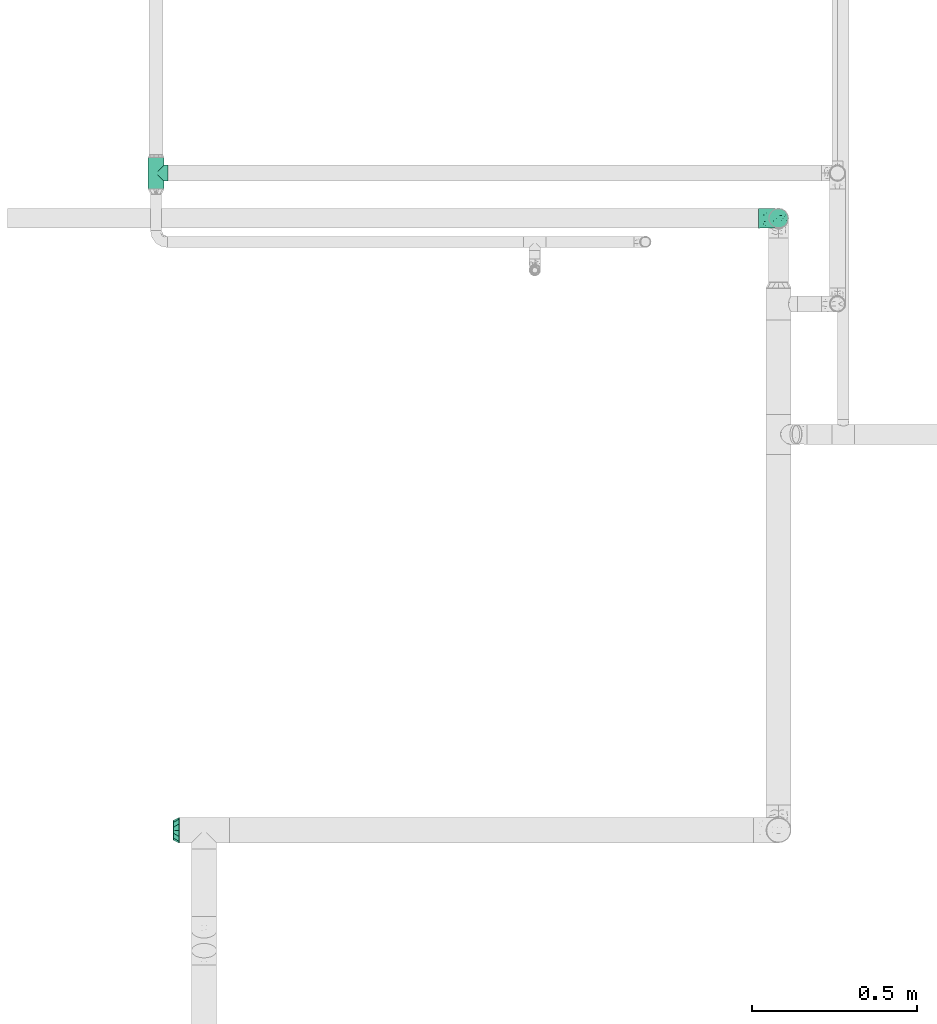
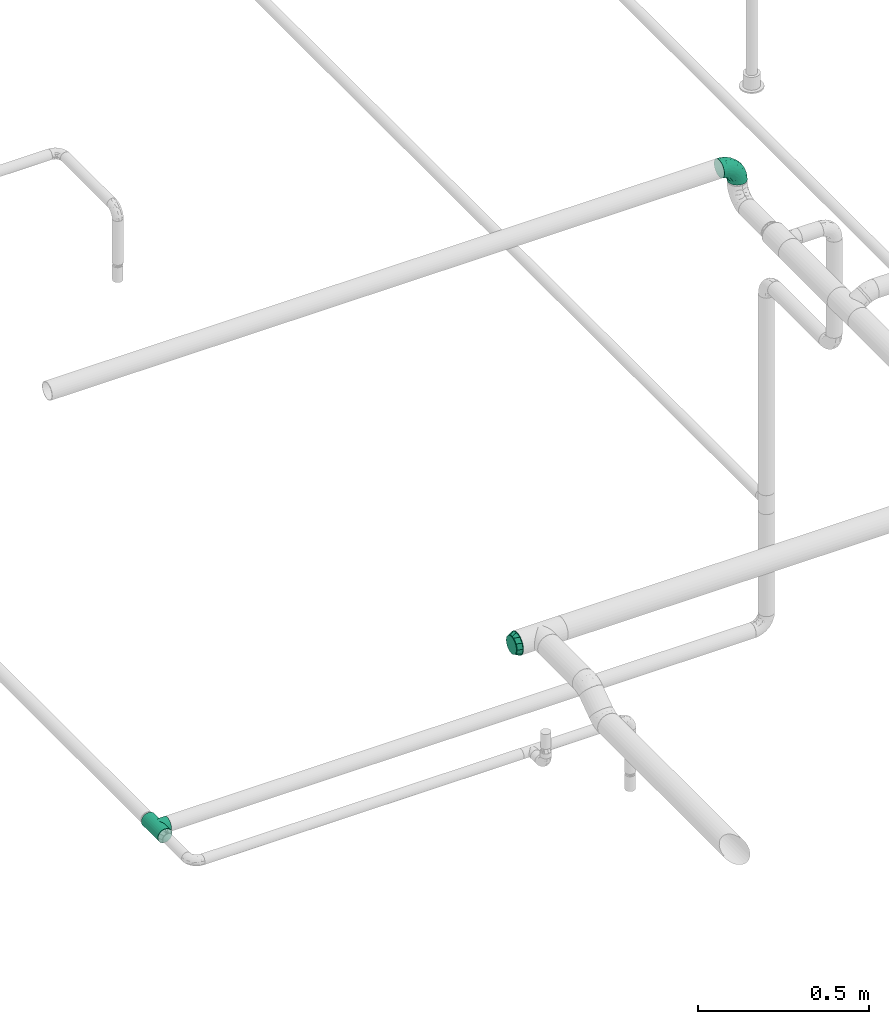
# One storey, part 86 of 95: 3 flow fittings.
"""IFC2X3 building model written with IfcOpenShell, lengths in millimetres."""

import ifcopenshell
import ifcopenshell.guid

model = None  # the IFC model being written
_history = None  # IfcOwnerHistory: only IFC2X3 demands one
_inside = {}  # id of a spatial element -> (the spatial element, [elements in it])
_under = {}  # id of a project, library or spatial element -> (it, [spatial elements below it])
_declared = {}  # id of a project -> (the project, [libraries it declares])
_typed = {}  # id of a type object -> (the type object, [elements of that type])
_made_of = {}  # id of a material, layer set ... -> (it, [elements and type objects made of it])


def new_model(schema):
    """Start an empty IFC model of exactly this schema.

    Asked for "IFC4X3", IfcOpenShell would pick the latest addendum, in which some entities
    have other attributes; the version numbers below select the first issue.
    IFC2X3 requires an IfcOwnerHistory on every rooted entity: one is made here for all.
    """
    global model, _history
    if schema == "IFC4X3":
        model = ifcopenshell.file(schema_version=(4, 3, 0, 0))
    else:
        model = ifcopenshell.file(schema=schema)
    _inside.clear()
    _under.clear()
    _declared.clear()
    _typed.clear()
    _made_of.clear()
    _history = None
    if model.schema == "IFC2X3":
        org = make("IfcOrganization", Name="unknown")
        user = make(
            "IfcPersonAndOrganization",
            ThePerson=make("IfcPerson", FamilyName="unknown"),
            TheOrganization=org,
        )
        app = make(
            "IfcApplication",
            ApplicationDeveloper=org,
            Version="unknown",
            ApplicationFullName="unknown",
            ApplicationIdentifier="unknown",
        )
        _history = make(
            "IfcOwnerHistory",
            OwningUser=user,
            OwningApplication=app,
            ChangeAction="ADDED",
            CreationDate=0,
        )
    return model


def make(cls, **values):
    """One entity of the class cls with the attributes given. An attribute that is None is left unset."""
    return model.create_entity(
        cls, **{name: value for name, value in values.items() if value is not None}
    )


def entity(cls, *values):
    """Any entity or typed value of the class cls, its attributes in the order of the schema. None: left unset."""
    e = model.create_entity(cls)
    for i, value in enumerate(values):
        if value is not None:
            e[i] = value
    return e


def rooted(cls, **values):
    """An entity with a GlobalId (a new one), such as an element, a storey or a relation."""
    return make(cls, GlobalId=ifcopenshell.guid.new(), OwnerHistory=_history, **values)


def si_unit(unit_type, name, prefix=None):
    """IfcSIUnit, for example si_unit("LENGTHUNIT", "METRE", prefix="MILLI")."""
    return make("IfcSIUnit", UnitType=unit_type, Prefix=prefix, Name=name)


def converted_unit(unit_type, name, factor, base, dimensions=None, offset=None):
    """IfcConversionBasedUnit, such as the inch: factor (a typed value) times the base unit."""
    return make(
        "IfcConversionBasedUnit"
        if offset is None
        else "IfcConversionBasedUnitWithOffset",
        ConversionOffset=offset,
        Dimensions=None
        if dimensions is None
        else entity("IfcDimensionalExponents", *dimensions),
        UnitType=unit_type,
        Name=name,
        ConversionFactor=make(
            "IfcMeasureWithUnit", ValueComponent=factor, UnitComponent=base
        ),
    )


def derived_unit(unit_type, elements):
    """IfcDerivedUnit: a product of units, each with its exponent."""
    return make(
        "IfcDerivedUnit",
        Elements=[
            make("IfcDerivedUnitElement", Unit=unit, Exponent=power)
            for unit, power in elements
        ],
        UnitType=unit_type,
    )


def assignment(units):
    """IfcUnitAssignment: the units of a project."""
    return None if units is None else make("IfcUnitAssignment", Units=units)


def point(xyz):
    """IfcCartesianPoint."""
    return None if xyz is None else make("IfcCartesianPoint", Coordinates=xyz)


def direction(xyz):
    """IfcDirection."""
    return None if xyz is None else make("IfcDirection", DirectionRatios=xyz)


def frame(location, z_axis=None, x_axis=None):
    """IfcAxis2Placement3D, a coordinate frame: its origin and axes. An axis left out is left unset."""
    return make(
        "IfcAxis2Placement3D",
        Location=point(location),
        Axis=direction(z_axis),
        RefDirection=direction(x_axis),
    )


def origin_with_axes():
    """The frame at (0, 0, 0) with the z axis (0, 0, 1) and the x axis (1, 0, 0) written out."""
    return frame((0.0, 0.0, 0.0), z_axis=(0.0, 0.0, 1.0), x_axis=(1.0, 0.0, 0.0))


def place(relative_to, where):
    """IfcLocalPlacement: puts the frame where relative to a parent placement (None: the world)."""
    return make(
        "IfcLocalPlacement", PlacementRelTo=relative_to, RelativePlacement=where
    )


def context(
    kind, dimensions, precision=None, world=None, true_north=None, identifier=None
):
    """IfcGeometricRepresentationContext, for example the 3D "Model" context."""
    return make(
        "IfcGeometricRepresentationContext",
        ContextIdentifier=identifier,
        ContextType=kind,
        CoordinateSpaceDimension=dimensions,
        Precision=precision,
        WorldCoordinateSystem=world,
        TrueNorth=true_north,
    )


def subcontext(parent, identifier, kind, view, scale=None):
    """IfcGeometricRepresentationSubContext, for example "Body" below "Model"."""
    return make(
        "IfcGeometricRepresentationSubContext",
        ContextIdentifier=identifier,
        ContextType=kind,
        ParentContext=parent,
        TargetScale=scale,
        TargetView=view,
    )


def project(units=None, contexts=None):
    """IfcProject with its units and contexts."""
    return rooted(
        "IfcProject",
        Name="project",
        RepresentationContexts=contexts,
        UnitsInContext=assignment(units),
    )


def spatial(cls, under=None, at=None, **own):
    """A site, building, storey or space (cls), placed at a placement, below another one or the project."""
    s = rooted(cls, ObjectPlacement=at, **own)
    if under is not None:
        _under.setdefault(under.id(), (under, []))[1].append(s)
    return s


def faces_of(points, faces, orient=None, outer=None):
    """IfcFace entities. A face is a list of loops; a loop is a list of indices into points, from 0.

    orient and outer hold one flag for each loop. By default every Orientation is true, the
    first loop of a face is its IfcFaceOuterBound and the others are IfcFaceBound.
    """
    made = []
    for i, loops in enumerate(faces):
        bounds = []
        for j, loop in enumerate(loops):
            is_outer = j == 0 if outer is None else outer[i][j]
            bounds.append(
                make(
                    "IfcFaceOuterBound" if is_outer else "IfcFaceBound",
                    Bound=make("IfcPolyLoop", Polygon=[points[k] for k in loop]),
                    Orientation=True if orient is None else orient[i][j],
                )
            )
        made.append(make("IfcFace", Bounds=bounds))
    return made


def open_shell(faces, orient=None, outer=None):
    """The faces of one IfcOpenShell. surface_model builds it on its shared points."""
    return ("IfcOpenShell", faces, orient, outer)


def surface_model(cls, points, shells):
    """IfcFaceBasedSurfaceModel or IfcShellBasedSurfaceModel (cls): surfaces that need not close."""
    shared = [point(p) for p in points]
    made = [make(c, CfsFaces=faces_of(shared, fs, o, b)) for c, fs, o, b in shells]
    if cls == "IfcFaceBasedSurfaceModel":
        return make(cls, FbsmFaces=made)
    return make(cls, SbsmBoundary=made)


def shape(context_of_items, identifier, shape_type, items):
    """IfcShapeRepresentation: the items that make up one representation, for example the "Body"."""
    return make(
        "IfcShapeRepresentation",
        ContextOfItems=context_of_items,
        RepresentationIdentifier=identifier,
        RepresentationType=shape_type,
        Items=items,
    )


def source(mapping_origin, context_of_items, identifier, shape_type, items):
    """IfcRepresentationMap: a shape defined once, which mapped items show again and again."""
    return make(
        "IfcRepresentationMap",
        MappingOrigin=mapping_origin,
        MappedRepresentation=shape(context_of_items, identifier, shape_type, items),
    )


def transform(
    local_origin,
    x_axis=None,
    y_axis=None,
    z_axis=None,
    scale=None,
    scale2=None,
    scale3=None,
    uniform=True,
):
    """IfcCartesianTransformationOperator3D, or its non-uniform kind. x_axis, y_axis, z_axis: its Axis1, 2, 3."""
    if uniform:
        return make(
            "IfcCartesianTransformationOperator3D",
            Axis1=direction(x_axis),
            Axis2=direction(y_axis),
            LocalOrigin=point(local_origin),
            Scale=scale,
            Axis3=direction(z_axis),
        )
    return make(
        "IfcCartesianTransformationOperator3DnonUniform",
        Axis1=direction(x_axis),
        Axis2=direction(y_axis),
        LocalOrigin=point(local_origin),
        Scale=scale,
        Axis3=direction(z_axis),
        Scale2=scale2,
        Scale3=scale3,
    )


def mapped(mapping_source, mapping_target):
    """IfcMappedItem: shows the shape of a source again, moved by a transform."""
    return make(
        "IfcMappedItem", MappingSource=mapping_source, MappingTarget=mapping_target
    )


def made_of(thing, what):
    """Note that an element or type object is made of a material, layer set ...; save() writes the relation."""
    if what is not None:
        _made_of.setdefault(what.id(), (what, []))[1].append(thing)
    return thing


def type_object(cls, material=None, **own):
    """A type object (cls), such as IfcWallType, which elements share."""
    return made_of(rooted(cls, **own), material)


def element(
    cls,
    number,
    at=None,
    inside=None,
    cuts=None,
    type_object=None,
    material=None,
    context=None,
    identifier="Body",
    shape_type=None,
    held_by="IfcProductDefinitionShape",
    body=None,
    shapes=None,
    **own,
):
    """One element of the class cls, such as IfcWall. Its Tag is "e" and its number.

    at: its placement. inside: the storey or other place that contains it. cuts: it is an
    opening in that element (IfcRelVoidsElement). A single representation is given by context,
    identifier, shape_type and body (its items); several are given by shapes. held_by: the class
    of the entity that holds the representations. save() writes the other relations.
    """
    e = rooted(cls, Tag="e%d" % number, ObjectPlacement=at, **own)
    if body is not None:
        shapes = [shape(context, identifier, shape_type, body)]
    if shapes is not None:
        e.Representation = make(held_by, Representations=shapes)
    if inside is not None:
        _inside.setdefault(inside.id(), (inside, []))[1].append(e)
    if cuts is not None:
        rooted(
            "IfcRelVoidsElement", RelatingBuildingElement=cuts, RelatedOpeningElement=e
        )
    if type_object is not None:
        _typed.setdefault(type_object.id(), (type_object, []))[1].append(e)
    return made_of(e, material)


def aggregate(whole, parts):
    """IfcRelAggregates: a whole, such as a stair, and the parts it consists of."""
    return rooted("IfcRelAggregates", RelatingObject=whole, RelatedObjects=parts)


def save(model, path):
    """Write the relations noted so far, then the file.

    IfcRelAggregates (storeys below a building ...), IfcRelContainedInSpatialStructure (elements
    in a storey), IfcRelDefinesByType, IfcRelAssociatesMaterial and IfcRelDeclares: one each for
    every whole, place, type object, material and project.
    """
    for whole, parts in _under.values():
        aggregate(whole, parts)
    for where, things in _inside.values():
        rooted(
            "IfcRelContainedInSpatialStructure",
            RelatedElements=things,
            RelatingStructure=where,
        )
    for kind, things in _typed.values():
        rooted("IfcRelDefinesByType", RelatedObjects=things, RelatingType=kind)
    for what, things in _made_of.values():
        rooted("IfcRelAssociatesMaterial", RelatedObjects=things, RelatingMaterial=what)
    for by, libraries in _declared.values():
        rooted("IfcRelDeclares", RelatingContext=by, RelatedDefinitions=libraries)
    model.write(path)


model = new_model("IFC2X3")

# Units and contexts
model_context = context("Model", 3, precision=0.01, world=frame((0.0, 4.29681676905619e-09, 0.0)), true_north=direction((4.01073788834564e-13, 1.0)))
plan_context = context("Plan", 3, precision=0.01, world=frame((0.0, 4.29681676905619e-09, 0.0)), true_north=direction((4.01073788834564e-13, 1.0)))
body_context = subcontext(model_context, "Body", "Model", "MODEL_VIEW")
ifc_project = project(units=[converted_unit("PLANEANGLEUNIT", "DEGREE", entity("IfcPositiveLengthMeasure", 0.0174532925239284), si_unit("PLANEANGLEUNIT", "RADIAN"), dimensions=[0, 0, 0, 0, 0, 0, 0]), si_unit("AREAUNIT", "SQUARE_METRE"), si_unit("LENGTHUNIT", "METRE", prefix="MILLI"), si_unit("MASSUNIT", "GRAM", prefix="KILO"), si_unit("POWERUNIT", "WATT"), si_unit("PRESSUREUNIT", "PASCAL"), si_unit("FORCEUNIT", "NEWTON", prefix="KILO"), si_unit("ELECTRICVOLTAGEUNIT", "VOLT"), si_unit("ELECTRICCURRENTUNIT", "AMPERE"), si_unit("THERMODYNAMICTEMPERATUREUNIT", "DEGREE_CELSIUS"), si_unit("TIMEUNIT", "SECOND"), si_unit("VOLUMEUNIT", "CUBIC_METRE"), derived_unit("LINEARVELOCITYUNIT", [(si_unit("LENGTHUNIT", "METRE"), 1), (si_unit("TIMEUNIT", "SECOND"), -1)]), derived_unit("VOLUMETRICFLOWRATEUNIT", [(si_unit("VOLUMEUNIT", "CUBIC_METRE"), 1), (si_unit("TIMEUNIT", "SECOND"), -1)]), derived_unit("THERMALTRANSMITTANCEUNIT", [(si_unit("POWERUNIT", "WATT"), 1), (si_unit("THERMODYNAMICTEMPERATUREUNIT", "KELVIN"), -1), (si_unit("AREAUNIT", "SQUARE_METRE"), -1)]), derived_unit("SOUNDPRESSUREUNIT", [(si_unit("PRESSUREUNIT", "PASCAL"), 1)])], contexts=[model_context, plan_context])

# Site, building, storey
site_placement = place(None, frame((0.0, -4.29681676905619e-09, 0.0), z_axis=(0.0, 0.0, 1.0), x_axis=(1.0, 0.0, 0.0)))
site = spatial("IfcSite", under=ifc_project, at=site_placement, CompositionType="ELEMENT")
building_placement = place(site_placement, frame((0.0, 4.29681676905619e-09, 0.0), z_axis=(0.0, 0.0, 1.0), x_axis=(1.0, 0.0, 0.0)))
building = spatial("IfcBuilding", under=site, at=building_placement, Name="mc-building", CompositionType="ELEMENT")
storey_placement = place(building_placement, frame((0.0, 0.0, 210900.0), z_axis=(0.0, 0.0, 1.0), x_axis=(1.0, 0.0, 0.0)))
storey = spatial("IfcBuildingStorey", under=building, at=storey_placement, Name="Nivå F", CompositionType="ELEMENT", Elevation=210900.0)

# Flow fittings
pipe_fitting_type_1 = type_object("IfcPipeFittingType", Name="magi_pipe_fe_reducer_centric_short_NOR", PredefinedType="TRANSITION")
shared_shape_1 = source(origin_with_axes(), body_context, "Body", "SurfaceModel", [
    surface_model("IfcShellBasedSurfaceModel", [(0.0, 32.99557, 19.05), (0.0, 0.0, -38.1), (0.0, -38.1, 0.0), (0.0, 32.99557, -19.05), (0.0, 19.05, -32.99557), (0.0, -19.05, -32.99557), (0.0, -32.99557, -19.05), (15.8, 9.33231, 28.72191), (15.8, 30.2, 0.0), (15.8, 24.43231, 17.75111), (15.8, -24.43231, 17.75111), (15.8, -9.33231, -28.72191), (15.8, 9.33231, -28.72191), (15.8, 24.43231, -17.75111), (15.8, 27.31616, -8.87556), (15.8, 16.88231, -23.23651), (0.0, 26.02278, -26.02278), (15.8, -16.88231, -23.23651), (15.8, 0.0, -28.72191), (0.0, 9.525, -35.54778), (0.0, -9.525, -35.54778), (15.8, -24.43231, -17.75111), (0.0, -26.02278, -26.02278), (15.8, -27.31616, -8.87556), (0.0, -32.99557, 19.05), (15.8, -27.31616, 8.87556), (15.8, -16.88231, 23.23651), (15.8, -9.33231, 28.72191), (0.0, -19.05, 32.99557), (0.0, -26.02278, 26.02278), (0.0, 19.05, 32.99557), (15.8, 16.88231, 23.23651), (15.8, 0.0, 28.72191), (0.0, -9.525, 35.54778), (0.0, 9.525, 35.54778), (0.0, 26.02278, 26.02278), (15.8, 27.31616, 8.87556), (0.0, 38.1, 0.0), (17.8, -21.35462, -21.35462), (17.8, -15.1, -26.15397), (17.8, -7.81634, -29.17096), (17.8, -26.15397, -15.1), (17.8, -30.2, 0.0), (17.8, -29.17096, -7.81634), (17.8, 15.1, -26.15397), (17.8, 29.17096, -7.81634), (17.8, 7.81634, -29.17096), (17.8, 0.0, -30.2), (17.8, 26.15397, -15.1), (17.8, 21.35462, -21.35462), (17.8, -29.17096, 7.81634), (17.8, -21.35462, 21.35462), (17.8, -26.15397, 15.1), (17.8, 21.35462, 21.35462), (17.8, 0.0, 30.2), (17.8, -7.81634, 29.17096), (17.8, -15.1, 26.15397), (17.8, 26.15397, 15.1), (17.8, 29.17096, 7.81634), (17.8, 30.2, 0.0), (17.8, 15.1, 26.15397), (17.8, 7.81634, 29.17096), (15.8, -15.1, 26.15397), (15.8, -7.81634, 29.17096), (15.8, 0.0, 30.2), (15.8, -21.35462, 21.35462), (15.8, -29.17096, 7.81634), (15.8, -26.15397, 15.1), (15.8, 15.1, -26.15397), (15.8, 29.17096, 7.81634), (15.8, 15.1, 26.15397), (15.8, 21.35462, 21.35462), (15.8, 7.81634, 29.17096), (15.8, 26.15397, 15.1), (15.8, 29.17096, -7.81634), (15.8, -30.2, 0.0), (15.8, -26.15397, -15.1), (15.8, -29.17096, -7.81634), (15.8, -21.35462, -21.35462), (15.8, -7.81634, -29.17096), (15.8, -15.1, -26.15397), (15.8, 26.15397, -15.1), (15.8, 21.35462, -21.35462), (15.8, 7.81634, -29.17096), (15.8, 0.0, -30.2), (-2.0, 0.0, 38.1), (-2.0, 36.80177, -9.86101), (-2.0, -9.86101, 36.80177), (-2.0, -19.05, 32.99557), (-2.0, -26.94077, 26.94077), (-2.0, -36.80177, 9.86101), (-2.0, -32.99557, 19.05), (-2.0, 38.1, 0.0), (-2.0, 19.05, 32.99557), (-2.0, 26.94077, 26.94077), (-2.0, 9.86101, 36.80177), (-2.0, 32.99557, 19.05), (-2.0, 36.80177, 9.86101), (-2.0, -36.80177, -9.86101), (-2.0, -32.99557, -19.05), (-2.0, -9.86101, -36.80177), (-2.0, -19.05, -32.99557), (-2.0, -26.94077, -26.94077), (-2.0, 32.99557, -19.05), (-2.0, 26.94077, -26.94077), (-2.0, 9.86101, -36.80177), (-2.0, 0.0, -38.1), (-2.0, 19.05, -32.99557), (-2.0, -38.1, 0.0), (0.0, -26.94077, -26.94077), (0.0, -9.86101, -36.80177), (0.0, -36.80177, -9.86101), (0.0, 26.94077, -26.94077), (0.0, 9.86101, -36.80177), (0.0, 36.80177, -9.86101), (0.0, -36.80177, 9.86101), (0.0, -26.94077, 26.94077), (0.0, 0.0, 38.1), (0.0, -9.86101, 36.80177), (0.0, 9.86101, 36.80177), (0.0, 36.80177, 9.86101), (0.0, 26.94077, 26.94077), (0.0, -35.64327, -9.16863), (0.0, 35.64327, -9.16863), (0.0, 35.64327, 9.16863), (0.0, -35.64327, 9.16863)], [open_shell([[[0, 1, 2]], [[3, 4, 0]], [[2, 5, 6]], [[2, 1, 5]], [[7, 8, 9]], [[10, 11, 8]], [[12, 13, 8]], [[8, 11, 12]], [[3, 14, 13]], [[15, 12, 4]], [[16, 13, 15]], [[5, 11, 17]], [[18, 19, 12]], [[11, 5, 20]], [[17, 21, 22]], [[21, 23, 6]], [[11, 20, 18]], [[19, 4, 12]], [[24, 25, 10]], [[26, 27, 28]], [[29, 10, 26]], [[30, 7, 31]], [[32, 33, 27]], [[7, 30, 34]], [[31, 9, 35]], [[9, 36, 0]], [[7, 34, 32]], [[33, 28, 27]], [[1, 0, 4]], [[0, 37, 3]], [[38, 39, 40]], [[41, 38, 40]], [[42, 43, 41]], [[44, 41, 40]], [[42, 41, 45]], [[46, 44, 47]], [[44, 40, 47]], [[48, 45, 49]], [[44, 49, 45]], [[44, 45, 41]], [[45, 50, 42]], [[51, 52, 50]], [[51, 50, 53]], [[54, 55, 56]], [[56, 51, 53]], [[54, 56, 53]], [[57, 53, 58]], [[58, 45, 59]], [[60, 61, 53]], [[50, 58, 53]], [[54, 53, 61]], [[50, 45, 58]], [[62, 63, 64]], [[65, 62, 64]], [[66, 67, 65]], [[68, 64, 69]], [[64, 68, 65]], [[70, 71, 72]], [[71, 64, 72]], [[73, 69, 71]], [[71, 69, 64]], [[8, 74, 69]], [[66, 65, 75]], [[76, 77, 75]], [[78, 76, 75]], [[79, 80, 78]], [[75, 79, 78]], [[65, 68, 79]], [[81, 82, 74]], [[68, 74, 82]], [[83, 84, 68]], [[68, 69, 74]], [[68, 84, 79]], [[79, 75, 65]], [[8, 45, 74]], [[74, 48, 81]], [[68, 82, 44]], [[49, 82, 81]], [[83, 68, 46]], [[45, 48, 74]], [[8, 59, 45]], [[68, 44, 46]], [[44, 82, 49]], [[81, 48, 49]], [[83, 46, 47]], [[47, 84, 83]], [[84, 40, 79]], [[79, 39, 80]], [[76, 78, 41]], [[38, 78, 80]], [[77, 76, 43]], [[39, 38, 80]], [[79, 40, 39]], [[77, 43, 42]], [[43, 76, 41]], [[78, 38, 41]], [[77, 42, 75]], [[47, 40, 84]], [[75, 50, 66]], [[66, 52, 67]], [[62, 65, 56]], [[51, 65, 67]], [[63, 62, 55]], [[50, 52, 66]], [[75, 42, 50]], [[62, 56, 55]], [[56, 65, 51]], [[67, 52, 51]], [[63, 55, 54]], [[54, 64, 63]], [[64, 61, 72]], [[72, 60, 70]], [[73, 71, 57]], [[53, 71, 70]], [[69, 73, 58]], [[60, 53, 70]], [[72, 61, 60]], [[69, 58, 59]], [[58, 73, 57]], [[71, 53, 57]], [[69, 59, 8]], [[54, 61, 64]], [[85, 86, 87]], [[88, 87, 89]], [[90, 91, 89]], [[87, 90, 89]], [[86, 85, 92]], [[93, 94, 95]], [[96, 95, 94]], [[97, 92, 96]], [[95, 96, 92]], [[92, 85, 95]], [[90, 87, 86]], [[98, 90, 86]], [[99, 98, 100]], [[100, 101, 102]], [[99, 100, 102]], [[100, 98, 103]], [[103, 104, 100]], [[98, 86, 103]], [[105, 106, 107]], [[100, 104, 107]], [[106, 100, 107]], [[108, 90, 98]], [[109, 5, 110]], [[111, 109, 110]], [[37, 110, 112]], [[6, 109, 111]], [[111, 110, 37]], [[113, 4, 1]], [[4, 110, 1]], [[110, 4, 112]], [[3, 37, 112]], [[114, 37, 3]], [[115, 2, 111]], [[116, 24, 115]], [[117, 116, 115]], [[116, 117, 118]], [[28, 116, 118]], [[119, 117, 115]], [[120, 0, 37]], [[119, 37, 0]], [[30, 119, 121]], [[0, 121, 119]], [[119, 115, 37]], [[111, 37, 115]], [[92, 114, 86]], [[86, 3, 103]], [[107, 104, 4]], [[112, 104, 103]], [[105, 107, 113]], [[114, 3, 86]], [[92, 37, 114]], [[107, 4, 113]], [[4, 104, 112]], [[103, 3, 112]], [[105, 113, 1]], [[1, 106, 105]], [[106, 110, 100]], [[100, 5, 101]], [[99, 102, 6]], [[109, 102, 101]], [[98, 99, 111]], [[5, 109, 101]], [[100, 110, 5]], [[98, 111, 2]], [[111, 99, 6]], [[102, 109, 6]], [[98, 2, 108]], [[1, 110, 106]], [[108, 115, 90]], [[90, 24, 91]], [[88, 89, 28]], [[116, 89, 91]], [[87, 88, 118]], [[115, 24, 90]], [[108, 2, 115]], [[88, 28, 118]], [[28, 89, 116]], [[91, 24, 116]], [[87, 118, 117]], [[117, 85, 87]], [[85, 119, 95]], [[95, 30, 93]], [[96, 94, 0]], [[121, 94, 93]], [[97, 96, 120]], [[30, 121, 93]], [[95, 119, 30]], [[97, 120, 37]], [[120, 96, 0]], [[94, 121, 0]], [[97, 37, 92]], [[117, 119, 85]], [[27, 8, 7]], [[10, 8, 27]], [[75, 21, 10]], [[21, 11, 10]], [[2, 24, 28]], [[117, 2, 28]], [[30, 0, 117]], [[2, 117, 0]], [[2, 122, 75]], [[123, 37, 8]], [[23, 75, 122]], [[22, 5, 17]], [[22, 21, 6]], [[23, 122, 6]], [[123, 14, 3]], [[8, 14, 123]], [[16, 3, 13]], [[1, 18, 20]], [[16, 15, 4]], [[1, 19, 18]], [[37, 124, 8]], [[125, 2, 75]], [[36, 8, 124]], [[35, 30, 31]], [[35, 9, 0]], [[36, 124, 0]], [[125, 25, 24]], [[75, 25, 125]], [[29, 24, 10]], [[117, 32, 34]], [[29, 26, 28]], [[117, 33, 32]]])]),
])
flow_fitting_1_placement = place(storey_placement, frame((520788.65321, 449640.17009, 4440.0), z_axis=(0.0, 0.0, 1.0), x_axis=(-1.0, 0.0, 0.0)))
element("IfcFlowFitting", 1, at=flow_fitting_1_placement, inside=storey, type_object=pipe_fitting_type_1, Name="magi_pipe_fe_reducer_centric_short_NOR", context=body_context, shape_type="MappedRepresentation", body=[
    mapped(shared_shape_1, transform((0.0, 0.0, 0.0), scale=1.0)),
])
pipe_fitting_type_2 = type_object("IfcPipeFittingType", Name="magi_pipe_fe_elbow_short_001", PredefinedType="BEND")
shared_shape_2 = source(origin_with_axes(), body_context, "Body", "SurfaceModel", [
    surface_model("IfcShellBasedSurfaceModel", [(-60.40006, 15.1, -26.15397), (-60.40006, 7.81634, -29.17096), (-60.40006, 0.0, -30.2), (-60.40006, -29.17096, -7.81634), (-60.40006, -21.35462, 21.35462), (-60.40006, 29.17096, -7.81634), (-60.40006, 26.15397, -15.1), (-60.40006, 21.35462, -21.35462), (-60.40006, -15.1, -26.15397), (-60.40006, -21.35462, -21.35462), (-60.40006, -7.81634, -29.17096), (-60.40006, -26.15397, -15.1), (-60.40006, -30.2, 0.0), (-60.40006, -29.17096, 7.81634), (-60.40006, 30.2, 0.0), (-60.40006, 29.17096, 7.81634), (-60.40006, 26.15397, 15.1), (-60.40006, 7.81634, 29.17096), (-60.40006, 15.1, 26.15397), (-60.40006, 21.35462, 21.35462), (-60.40006, -26.15397, 15.1), (-60.40006, -7.81634, 29.17096), (-60.40006, 0.0, 30.2), (-60.40006, -15.1, 26.15397), (-6e-05, 60.40006, -30.2), (-7.8164, 60.40006, -29.17096), (-15.10006, 60.40005, -26.15397), (29.1709, 60.40009, -7.81634), (-21.35469, 60.40004, -21.35462), (-26.15403, 60.40003, -15.1), (-29.17102, 60.40003, -7.81634), (-29.17102, 60.40003, 7.81634), (7.81627, 60.40007, -29.17096), (21.35456, 60.40008, -21.35462), (15.09994, 60.40008, -26.15397), (26.1539, 60.40009, -15.1), (29.1709, 60.40009, 7.81634), (30.19994, 60.40009, 0.0), (-7.8164, 60.40006, 29.17096), (-21.35469, 60.40004, 21.35462), (-26.15403, 60.40003, 15.1), (-15.10006, 60.40005, 26.15397), (21.35456, 60.40008, 21.35462), (26.1539, 60.40009, 15.1), (15.09994, 60.40008, 26.15397), (-6e-05, 60.40006, 30.2), (7.81627, 60.40007, 29.17096), (-30.20006, 60.40003, 0.0), (-40.79982, -26.48639, 9.49143), (-44.29277, -23.46037, 16.95222), (-32.4031, -25.76571, 0.0), (-45.54722, -27.84754, 0.0), (-7.73385, -10.42983, 11.64554), (-2.10202, -8.06732, 6.35118), (1.74445, -1.74445, 12.51335), (-46.13599, -4.00068, 29.68351), (-42.28986, 4.62925, 30.14853), (10.31658, 7.37499, 11.34434), (18.44154, 24.57523, 15.02147), (7.07273, 10.95737, 19.27498), (-30.06697, -0.27101, 29.27145), (-44.17732, -11.39441, 27.16031), (-23.45516, -7.13383, 25.24246), (-38.74032, -17.25266, 22.43475), (-27.05905, -23.14696, 6.2131), (-19.7749, -19.33132, 0.0), (-10.95737, -7.07275, 19.27498), (-5.39461, 5.39461, 24.69106), (-29.52074, 48.20087, 13.12597), (-25.22817, 47.018, 19.8404), (-11.27317, 52.09305, 28.2877), (-4.13908, 45.17499, 30.12582), (-46.55358, 11.8443, 28.52822), (-7.88308, 20.22721, 29.65331), (-15.00581, 5.54025, 28.20071), (-3.08525, 16.31625, 27.75343), (-52.25003, 18.2886, 24.60768), (-10.49594, 29.69868, 30.14582), (-22.36961, 22.36959, 29.46621), (-17.98265, 13.19717, 30.04443), (-47.74522, 32.16746, 6.63994), (-48.21591, 29.51581, 13.12397), (-37.49734, 37.4973, 11.28901), (-47.20973, 25.1754, 19.81929), (17.25262, 38.74033, 22.43475), (-31.32052, 40.03274, 17.09288), (11.39436, 44.17733, 27.16031), (23.46032, 44.29279, 16.95222), (26.48635, 40.79984, 9.49143), (-7.14669, -12.89692, 0.0), (-14.66467, -16.6119, 7.82463), (4.00063, 46.13599, 29.68351), (-33.18607, 12.93608, 29.65955), (-29.63419, 7.4003, 30.18711), (19.3313, 19.77492, 0.0), (23.14693, 27.05907, 6.2131), (16.61188, 14.66469, 7.82463), (27.84749, 45.54725, 0.0), (-32.10615, 20.4915, 27.93323), (-24.57521, -18.44156, 15.02148), (-21.89491, 39.0337, 25.38224), (-18.4501, 50.64053, 24.73297), (-31.78939, 48.71952, 6.47886), (-37.84921, 39.61075, 5.315), (13.91331, 24.32744, 20.46816), (7.13381, 23.45517, 25.24246), (-34.24609, 45.30002, 0.0), (-27.95753, 31.89168, 24.81537), (-41.58682, 20.50029, 25.43152), (-0.46162, 0.46161, 17.84241), (-17.23342, 31.26216, 29.03145), (-24.05998, 29.23814, 27.47858), (-13.06099, 40.92177, 28.76128), (-31.83395, 33.72705, 21.39203), (-38.78742, 32.45032, 16.84023), (0.27098, 30.06697, 29.27145), (-24.21475, -13.23742, 21.05734), (8.23545, 2.19337, 6.0216), (25.76568, 32.40313, 0.0), (12.89691, 7.1467, 0.0), (-45.30006, 34.24604, 0.0), (2.87511, -2.87511, 0.0), (-44.53438, 26.0087, -20.11577), (-48.18827, 29.52481, -13.12767), (-24.67195, -7.62157, -25.33714), (-26.22402, -0.37671, -28.72374), (-12.13398, -0.50534, -24.74576), (-47.80897, 3.81859, -30.10171), (-44.05724, -27.03585, -9.84546), (-37.94558, -22.39569, -16.35738), (-28.81669, -22.64668, -10.132), (-43.93804, 12.32789, -28.63778), (-33.27005, 7.13921, -30.19348), (-26.00874, 44.53435, -20.11577), (-48.8917, 31.68872, -6.60822), (-18.95527, 47.41149, -24.9828), (-12.32794, 43.93803, -28.63778), (-38.42783, 38.42779, -7.21049), (18.04258, 43.6916, -22.80146), (10.42229, 38.24539, -26.85918), (11.90571, 51.0048, -27.48545), (-5.88382, -10.62323, -7.95335), (-5.96947, -7.83116, -13.76183), (3.249, -2.56323, -7.96861), (-17.62233, 16.33, -30.18286), (-28.62965, 17.86952, -29.30113), (-47.41151, 18.95522, -24.9828), (-50.84461, -24.04089, -17.54629), (-29.38058, 34.30666, -22.74674), (-27.91103, 27.911, -26.51667), (-36.91223, 25.51095, -23.99234), (2.63352, -0.5551, -12.94367), (-43.69158, -18.04263, -22.80146), (22.39564, 37.9456, -16.35738), (27.03581, 44.05727, -9.84546), (22.64665, 28.81672, -10.132), (-51.00479, -11.90576, -27.48545), (3.8078, 44.49433, -29.64782), (-19.09208, -14.69948, -16.47487), (-22.54895, -12.31933, -21.1263), (-10.94775, -7.46235, -18.88206), (-32.95891, -13.78947, -23.7125), (-38.24537, -10.42233, -26.85917), (-44.49433, -3.80785, -29.64782), (-22.63014, 37.15317, -25.5824), (-31.68878, 48.89166, -6.60822), (-3.81864, 47.80896, -30.10171), (-10.66136, 10.66135, -28.51691), (0.37668, 26.22402, -28.72374), (1.27134, 14.18624, -25.18541), (-29.52486, 48.18823, -13.12767), (-36.27118, 36.27114, -14.88553), (24.04084, 50.84463, -17.54629), (17.50185, 24.26367, -16.21902), (9.73523, 11.44912, -16.75087), (12.31931, 22.54896, -21.1263), (6.24173, 25.78214, -26.38266), (-7.13924, 33.27004, -30.19348), (-36.71666, 19.43561, -27.21946), (-18.00757, 29.38866, -29.15505), (-0.28631, 0.28632, -17.49883), (-13.98852, -16.8849, -5.19509), (15.48567, 15.00439, -11.24741), (16.88489, 13.98853, -5.19509), (3.55778, 9.20511, -21.18402), (-15.00437, -15.48569, -11.24741)], [open_shell([[[0, 1, 2]], [[2, 3, 4]], [[0, 5, 6]], [[7, 0, 6]], [[2, 4, 0]], [[8, 9, 10]], [[9, 2, 10]], [[11, 3, 9]], [[9, 3, 2]], [[12, 13, 3]], [[5, 0, 4]], [[14, 4, 15]], [[16, 15, 17]], [[17, 18, 19]], [[16, 17, 19]], [[17, 15, 4]], [[20, 4, 13]], [[13, 4, 3]], [[21, 22, 23]], [[17, 4, 23]], [[17, 23, 22]], [[14, 5, 4]], [[24, 25, 26]], [[27, 24, 26]], [[28, 29, 30]], [[26, 28, 27]], [[28, 31, 27]], [[32, 33, 34]], [[33, 32, 27]], [[33, 27, 35]], [[32, 24, 27]], [[27, 36, 37]], [[31, 28, 30]], [[27, 31, 38]], [[39, 31, 40]], [[39, 41, 38]], [[39, 38, 31]], [[27, 38, 36]], [[36, 42, 43]], [[42, 36, 44]], [[44, 45, 46]], [[44, 36, 38]], [[38, 45, 44]], [[31, 30, 47]], [[48, 49, 20]], [[50, 48, 51]], [[52, 53, 54]], [[13, 48, 20]], [[13, 51, 48]], [[22, 55, 56]], [[20, 49, 4]], [[57, 58, 59]], [[60, 61, 62]], [[63, 23, 4]], [[63, 61, 23]], [[64, 50, 65]], [[62, 66, 67]], [[40, 68, 69]], [[38, 70, 71]], [[17, 72, 18]], [[73, 74, 75]], [[18, 76, 19]], [[21, 55, 22]], [[77, 78, 79]], [[80, 81, 82]], [[16, 83, 81]], [[84, 42, 44]], [[14, 15, 80]], [[15, 16, 81]], [[68, 85, 69]], [[83, 16, 19]], [[22, 56, 17]], [[44, 86, 84]], [[19, 76, 83]], [[87, 58, 88]], [[40, 31, 68]], [[89, 90, 65]], [[45, 91, 46]], [[65, 90, 64]], [[45, 38, 71]], [[92, 93, 79]], [[88, 36, 43]], [[43, 42, 87]], [[87, 88, 43]], [[94, 95, 96]], [[88, 97, 36]], [[98, 72, 92]], [[49, 99, 63]], [[69, 100, 101]], [[82, 102, 103]], [[104, 105, 59]], [[106, 102, 47]], [[98, 107, 108]], [[102, 82, 68]], [[86, 44, 46]], [[69, 39, 40]], [[109, 54, 57]], [[110, 100, 111]], [[23, 61, 21]], [[101, 41, 39]], [[70, 38, 41]], [[112, 77, 71]], [[84, 86, 105]], [[96, 95, 58]], [[100, 69, 113]], [[72, 17, 56]], [[108, 113, 83]], [[81, 114, 82]], [[112, 110, 77]], [[91, 71, 115]], [[62, 61, 63]], [[55, 61, 60]], [[116, 99, 66]], [[74, 62, 67]], [[91, 86, 46]], [[105, 86, 115]], [[75, 105, 115]], [[109, 67, 66]], [[59, 105, 67]], [[48, 64, 99]], [[99, 49, 48]], [[63, 4, 49]], [[42, 84, 87]], [[58, 87, 84]], [[92, 72, 56]], [[76, 72, 108]], [[102, 68, 31]], [[82, 114, 85]], [[98, 111, 107]], [[112, 70, 101]], [[114, 83, 113]], [[82, 103, 80]], [[92, 79, 78]], [[115, 71, 77]], [[74, 79, 60]], [[77, 79, 73]], [[71, 91, 45]], [[86, 91, 115]], [[61, 55, 21]], [[56, 55, 60]], [[57, 54, 117]], [[104, 59, 58]], [[116, 66, 62]], [[52, 99, 90]], [[13, 12, 51]], [[97, 88, 118]], [[97, 37, 36]], [[53, 90, 89]], [[90, 53, 52]], [[94, 96, 119]], [[88, 95, 118]], [[117, 54, 53]], [[92, 56, 93]], [[98, 92, 78]], [[111, 98, 78]], [[72, 98, 108]], [[110, 111, 78]], [[107, 111, 100]], [[47, 102, 31]], [[102, 106, 103]], [[106, 120, 103]], [[103, 120, 80]], [[14, 80, 120]], [[15, 81, 80]], [[56, 60, 93]], [[60, 79, 93]], [[117, 121, 119]], [[121, 117, 53]], [[53, 89, 121]], [[119, 96, 117]], [[117, 96, 57]], [[77, 110, 78]], [[100, 110, 112]], [[83, 114, 81]], [[85, 114, 113]], [[69, 85, 113]], [[82, 85, 68]], [[109, 52, 54]], [[99, 52, 66]], [[69, 101, 39]], [[112, 101, 100]], [[100, 113, 107]], [[108, 107, 113]], [[62, 74, 60]], [[75, 74, 67]], [[105, 75, 67]], [[73, 75, 115]], [[77, 73, 115]], [[74, 73, 79]], [[99, 64, 90]], [[50, 64, 48]], [[118, 95, 94]], [[58, 95, 88]], [[58, 57, 96]], [[109, 57, 59]], [[72, 76, 18]], [[83, 76, 108]], [[101, 70, 41]], [[71, 70, 112]], [[58, 84, 104]], [[105, 104, 84]], [[67, 109, 59]], [[52, 109, 66]], [[62, 63, 116]], [[99, 116, 63]], [[122, 6, 123]], [[124, 125, 126]], [[2, 1, 127]], [[128, 129, 130]], [[127, 131, 132]], [[29, 28, 133]], [[120, 134, 14]], [[135, 26, 136]], [[123, 134, 137]], [[138, 139, 140]], [[122, 7, 6]], [[141, 142, 143]], [[144, 132, 145]], [[131, 0, 146]], [[128, 11, 147]], [[148, 149, 150]], [[128, 51, 3]], [[142, 151, 143]], [[152, 9, 8]], [[153, 154, 155]], [[156, 152, 8]], [[32, 157, 24]], [[158, 159, 160]], [[147, 11, 9]], [[129, 152, 161]], [[156, 8, 10]], [[162, 163, 125]], [[154, 35, 27]], [[120, 106, 137]], [[149, 148, 164]], [[47, 30, 165]], [[163, 10, 2]], [[6, 5, 123]], [[25, 166, 136]], [[167, 168, 169]], [[170, 133, 171]], [[25, 24, 166]], [[34, 33, 138]], [[157, 32, 140]], [[30, 29, 170]], [[33, 35, 172]], [[26, 135, 28]], [[132, 131, 145]], [[32, 34, 140]], [[173, 174, 175]], [[169, 168, 176]], [[25, 136, 26]], [[175, 138, 173]], [[168, 177, 157]], [[163, 162, 156]], [[153, 172, 154]], [[11, 128, 3]], [[154, 97, 118]], [[131, 178, 145]], [[0, 7, 146]], [[175, 139, 138]], [[155, 118, 94]], [[131, 1, 0]], [[146, 178, 131]], [[170, 137, 165]], [[149, 179, 145]], [[171, 133, 148]], [[160, 180, 142]], [[65, 181, 89]], [[170, 165, 30]], [[137, 171, 123]], [[172, 138, 33]], [[138, 153, 173]], [[168, 157, 139]], [[166, 157, 177]], [[176, 175, 169]], [[168, 167, 144]], [[154, 27, 97]], [[155, 182, 173]], [[162, 124, 161]], [[147, 152, 129]], [[127, 163, 2]], [[132, 144, 125]], [[132, 125, 163]], [[125, 167, 126]], [[129, 158, 130]], [[27, 37, 97]], [[143, 182, 183]], [[169, 126, 167]], [[7, 122, 146]], [[178, 150, 149]], [[136, 179, 164]], [[133, 28, 135]], [[123, 5, 134]], [[122, 123, 171]], [[133, 170, 29]], [[137, 170, 171]], [[184, 175, 174]], [[180, 160, 126]], [[126, 169, 184]], [[126, 159, 124]], [[51, 128, 50]], [[51, 12, 3]], [[131, 127, 1]], [[163, 127, 132]], [[157, 166, 24]], [[136, 166, 177]], [[164, 179, 149]], [[144, 167, 125]], [[179, 144, 145]], [[168, 144, 177]], [[136, 177, 179]], [[144, 179, 177]], [[141, 121, 89]], [[89, 181, 141]], [[154, 118, 155]], [[183, 155, 94]], [[143, 183, 119]], [[119, 183, 94]], [[155, 183, 182]], [[181, 130, 185]], [[50, 128, 130]], [[130, 181, 65]], [[50, 130, 65]], [[141, 181, 185]], [[142, 141, 185]], [[143, 121, 141]], [[158, 160, 142]], [[142, 180, 151]], [[158, 142, 185]], [[126, 160, 159]], [[130, 158, 185]], [[129, 159, 158]], [[14, 134, 5]], [[120, 137, 134]], [[137, 106, 165]], [[47, 165, 106]], [[174, 151, 180]], [[182, 143, 151]], [[150, 146, 122]], [[149, 145, 178]], [[146, 150, 178]], [[122, 171, 148]], [[148, 150, 122]], [[164, 133, 135]], [[133, 164, 148]], [[164, 135, 136]], [[138, 140, 34]], [[157, 140, 139]], [[154, 172, 35]], [[138, 172, 153]], [[163, 156, 10]], [[152, 156, 162]], [[152, 147, 9]], [[128, 147, 129]], [[155, 173, 153]], [[174, 173, 182]], [[151, 174, 182]], [[174, 180, 184]], [[126, 184, 180]], [[175, 184, 169]], [[168, 139, 176]], [[175, 176, 139]], [[161, 124, 159]], [[125, 124, 162]], [[129, 161, 159]], [[162, 161, 152]], [[143, 119, 121]]])]),
])
flow_fitting_2_placement = place(storey_placement, frame((522602.92009, 451491.5262, 4400.00000999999), z_axis=(0.0, -1.0, 0.0), x_axis=(0.0, 0.0, 1.0)))
element("IfcFlowFitting", 2, at=flow_fitting_2_placement, inside=storey, type_object=pipe_fitting_type_2, Name="magi_pipe_fe_elbow_short_001", context=body_context, shape_type="MappedRepresentation", body=[
    mapped(shared_shape_2, transform((0.0, 0.0, 0.0), scale=1.0)),
])
pipe_fitting_type_3 = type_object("IfcPipeFittingType", Name="magi_pipe_fe_tee_centric_90_NOR", PredefinedType="JUNCTION")
shared_shape_3 = source(origin_with_axes(), body_context, "Body", "SurfaceModel", [
    surface_model("IfcShellBasedSurfaceModel", [(-48.4, 12.1, -20.95781), (-48.4, 6.26342, -23.37541), (-48.4, 17.11198, -17.11198), (-48.4, -20.95781, 12.1), (-48.4, -17.11198, 17.11198), (-48.4, -23.37541, 6.26342), (-48.4, 0.0, -24.2), (-48.4, -6.26342, -23.37541), (-48.4, 20.95781, -12.1), (-48.4, -23.37541, -6.26342), (-48.4, 23.37541, -6.26342), (-48.4, -12.1, -20.95781), (-48.4, -17.11198, -17.11198), (-48.4, -20.95781, -12.1), (-48.4, -24.2, 0.0), (-48.4, 20.95781, 12.1), (-48.4, 23.37541, 6.26342), (-48.4, 24.2, 0.0), (-48.4, 12.1, 20.95781), (-48.4, 17.11198, 17.11198), (-48.4, 6.26342, 23.37541), (-48.4, -12.1, 20.95781), (-48.4, -6.26342, 23.37541), (-48.4, 0.0, 24.2), (48.4, 6.26342, -23.37541), (48.4, -6.26342, -23.37541), (48.4, 0.0, -24.2), (48.4, 17.11198, -17.11198), (48.4, 12.1, -20.95781), (48.4, -23.37541, -6.26342), (48.4, 20.95781, -12.1), (48.4, 23.37541, -6.26342), (48.4, -17.11198, -17.11198), (48.4, -12.1, -20.95781), (48.4, -20.95781, -12.1), (48.4, -24.2, 0.0), (48.4, 24.2, 0.0), (48.4, 23.37541, 6.26342), (48.4, 20.95781, 12.1), (48.4, -23.37541, 6.26342), (48.4, -17.11198, 17.11198), (48.4, 12.1, 20.95781), (48.4, 17.11198, 17.11198), (48.4, 6.26342, 23.37541), (48.4, -20.95781, 12.1), (48.4, -12.1, 20.95781), (48.4, 0.0, 24.2), (48.4, -6.26342, 23.37541), (23.32218, -23.32218, 6.45878), (24.2, -24.2, 0.0), (20.94524, -20.94524, 12.12176), (13.56365, -13.56365, 20.04164), (17.56065, -17.56065, 16.65123), (-24.2, -24.2, 0.0), (-23.32218, -23.32218, 6.45878), (-20.94524, -20.94524, 12.12176), (-17.56065, -17.56065, 16.65123), (-13.56365, -13.56365, 20.04164), (-9.20594, -9.20594, 22.38059), (9.20594, -9.20594, 22.38059), (4.647, -4.647, 23.74964), (0.0, 0.0, 24.2), (-4.647, -4.647, 23.74964), (4.647, -4.647, -23.74964), (0.0, 0.0, -24.2), (-4.647, -4.647, -23.74964), (-9.20594, -9.20594, -22.38059), (9.20594, -9.20594, -22.38059), (13.56365, -13.56365, -20.04164), (17.56065, -17.56065, -16.65123), (20.94524, -20.94524, -12.12176), (23.32218, -23.32218, -6.45878), (-13.56365, -13.56365, -20.04164), (-17.56065, -17.56065, -16.65123), (-23.32218, -23.32218, -6.45878), (-20.94524, -20.94524, -12.12176), (0.0, -36.3, -24.2), (6.26342, -36.3, -23.37541), (12.1, -36.3, -20.95781), (12.1, -36.3, 20.95781), (17.11198, -36.3, -17.11198), (20.95781, -36.3, -12.1), (23.37541, -36.3, -6.26342), (-12.1, -36.3, -20.95781), (-20.95781, -36.3, -12.1), (-17.11198, -36.3, -17.11198), (-6.26342, -36.3, -23.37541), (-23.37541, -36.3, -6.26342), (-24.2, -36.3, 0.0), (24.2, -36.3, 0.0), (23.37541, -36.3, 6.26342), (20.95781, -36.3, 12.1), (-23.37541, -36.3, 6.26342), (17.11198, -36.3, 17.11198), (6.26342, -36.3, 23.37541), (-17.11198, -36.3, 17.11198), (-20.95781, -36.3, 12.1), (-12.1, -36.3, 20.95781), (0.0, -36.3, 24.2), (-6.26342, -36.3, 23.37541)], [open_shell([[[0, 1, 2]], [[3, 4, 5]], [[6, 7, 1]], [[8, 1, 9]], [[2, 1, 8]], [[10, 8, 9]], [[11, 12, 7]], [[13, 7, 12]], [[7, 13, 1]], [[13, 9, 1]], [[9, 14, 10]], [[14, 5, 10]], [[15, 16, 17]], [[15, 17, 5]], [[18, 19, 4]], [[5, 19, 15]], [[20, 18, 4]], [[4, 19, 5]], [[21, 22, 4]], [[23, 4, 22]], [[4, 23, 20]], [[10, 5, 17]], [[24, 25, 26]], [[27, 24, 28]], [[29, 24, 30]], [[30, 24, 27]], [[29, 30, 31]], [[25, 32, 33]], [[32, 25, 34]], [[24, 34, 25]], [[24, 29, 34]], [[31, 35, 29]], [[31, 36, 35]], [[36, 37, 38]], [[39, 36, 38]], [[40, 38, 41]], [[41, 38, 42]], [[40, 41, 43]], [[39, 40, 44]], [[39, 38, 40]], [[45, 46, 47]], [[46, 45, 40]], [[43, 46, 40]], [[36, 39, 35]], [[39, 44, 48]], [[35, 39, 49]], [[49, 39, 48]], [[44, 50, 48]], [[40, 45, 51]], [[50, 44, 52]], [[51, 52, 40]], [[52, 44, 40]], [[53, 54, 5]], [[53, 5, 14]], [[5, 54, 3]], [[54, 55, 3]], [[56, 57, 4]], [[4, 3, 56]], [[4, 57, 21]], [[56, 3, 55]], [[21, 57, 58]], [[51, 45, 59]], [[60, 46, 61]], [[59, 47, 60]], [[47, 59, 45]], [[60, 47, 46]], [[61, 46, 43]], [[38, 37, 16]], [[19, 41, 42]], [[15, 42, 38]], [[43, 41, 18]], [[17, 37, 36]], [[62, 61, 23]], [[62, 22, 58]], [[22, 62, 23]], [[58, 22, 21]], [[61, 20, 23]], [[43, 20, 61]], [[18, 20, 43]], [[18, 41, 19]], [[15, 19, 42]], [[16, 15, 38]], [[37, 17, 16]], [[27, 2, 30]], [[31, 10, 36]], [[31, 30, 8]], [[0, 27, 28]], [[26, 25, 63]], [[26, 64, 24]], [[64, 26, 63]], [[28, 24, 1]], [[64, 1, 24]], [[10, 31, 8]], [[30, 2, 8]], [[2, 27, 0]], [[36, 10, 17]], [[65, 66, 7]], [[6, 1, 64]], [[6, 65, 7]], [[66, 11, 7]], [[1, 0, 28]], [[6, 64, 65]], [[63, 25, 67]], [[33, 32, 68]], [[69, 68, 32]], [[34, 70, 69]], [[69, 32, 34]], [[33, 68, 67]], [[29, 35, 49]], [[29, 71, 34]], [[71, 29, 49]], [[34, 71, 70]], [[72, 11, 66]], [[72, 12, 11]], [[12, 72, 73]], [[12, 73, 13]], [[74, 53, 9]], [[75, 74, 13]], [[74, 9, 13]], [[9, 53, 14]], [[75, 13, 73]], [[33, 67, 25]], [[76, 77, 78]], [[79, 76, 78]], [[80, 81, 82]], [[80, 82, 78]], [[79, 83, 76]], [[83, 84, 85]], [[83, 86, 76]], [[83, 87, 84]], [[87, 83, 88]], [[83, 79, 88]], [[89, 78, 82]], [[89, 90, 91]], [[89, 91, 79]], [[79, 92, 88]], [[79, 91, 93]], [[92, 79, 94]], [[92, 95, 96]], [[92, 94, 95]], [[97, 98, 99]], [[98, 97, 95]], [[94, 98, 95]], [[79, 78, 89]], [[88, 92, 53]], [[54, 53, 92]], [[95, 97, 57]], [[54, 92, 96]], [[95, 56, 96]], [[58, 97, 99]], [[55, 54, 96]], [[56, 55, 96]], [[58, 57, 97]], [[98, 61, 62]], [[58, 99, 62]], [[56, 95, 57]], [[62, 99, 98]], [[60, 98, 94]], [[79, 59, 94]], [[91, 90, 48]], [[52, 93, 91]], [[51, 79, 93]], [[49, 90, 89]], [[59, 60, 94]], [[51, 59, 79]], [[49, 48, 90]], [[50, 52, 91]], [[48, 50, 91]], [[51, 93, 52]], [[98, 60, 61]], [[89, 82, 49]], [[71, 49, 82]], [[69, 81, 80]], [[80, 78, 68]], [[81, 71, 82]], [[67, 78, 77]], [[70, 71, 81]], [[69, 70, 81]], [[67, 68, 78]], [[76, 64, 63]], [[67, 77, 63]], [[69, 80, 68]], [[63, 77, 76]], [[65, 76, 86]], [[83, 66, 86]], [[84, 87, 74]], [[73, 85, 84]], [[72, 83, 85]], [[53, 87, 88]], [[66, 65, 86]], [[72, 66, 83]], [[53, 74, 87]], [[75, 73, 84]], [[74, 75, 84]], [[72, 85, 73]], [[76, 65, 64]]])]),
])
flow_fitting_3_placement = place(storey_placement, frame((520719.73241, 451628.04949, 2600.0), z_axis=(0.0, 0.0, -1.0), x_axis=(0.0, -1.0, 0.0)))
element("IfcFlowFitting", 3, at=flow_fitting_3_placement, inside=storey, type_object=pipe_fitting_type_3, Name="magi_pipe_fe_tee_centric_90_NOR", context=body_context, shape_type="MappedRepresentation", body=[
    mapped(shared_shape_3, transform((0.0, 0.0, 0.0), scale=1.0)),
])

save(model, "model.ifc")
